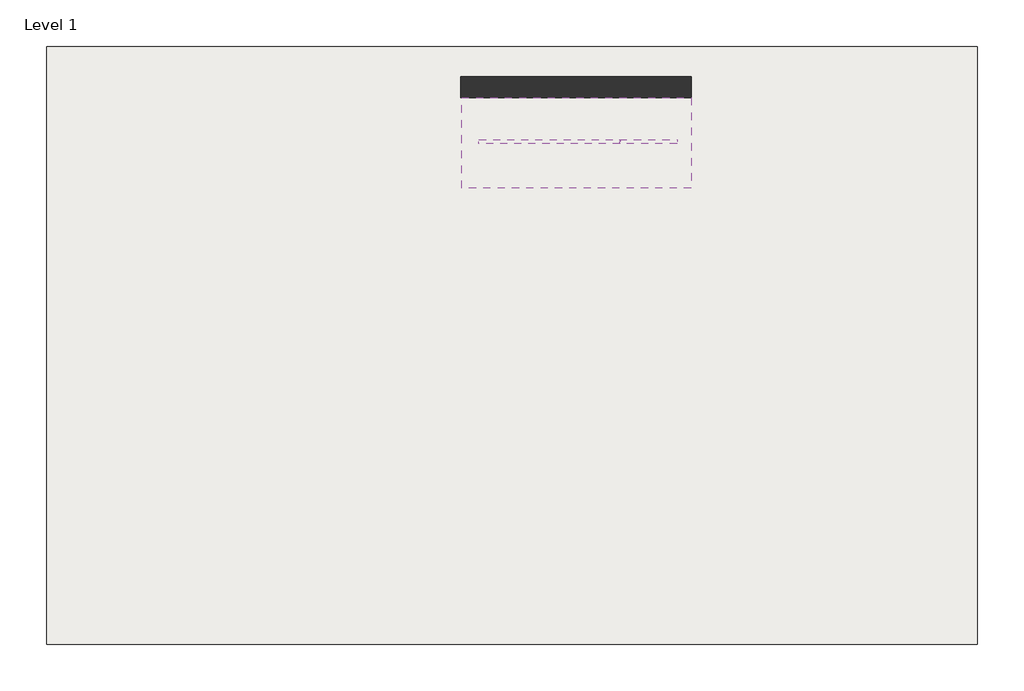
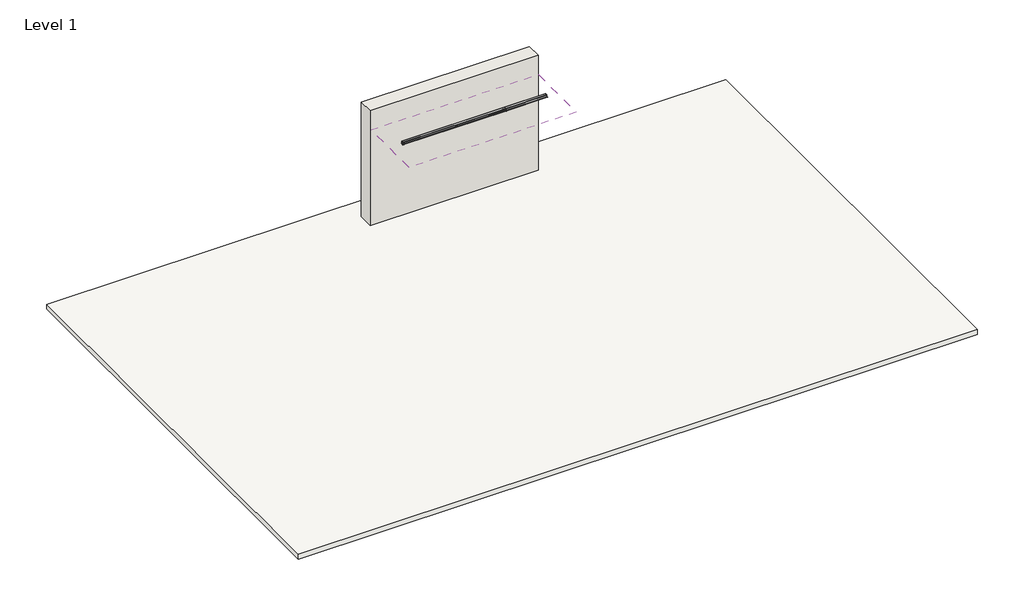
# One storey: 2 light fixtures, 1 covering, 1 slab, 1 wall.
"""IFC4 building model written with IfcOpenShell, lengths in millimetres."""

from ifc_helpers import new_model, si_unit, frame, origin, origin_with_axes, place, context, project, spatial, polyline, outline, extrude, transform, mapped, element, save
from components import lighting_recessed_axis_extend_2_b15b8388, lighting_recessed_axis_extend_2_ac76121e

model = new_model("IFC4")

# Units and contexts
model_context = context("Model", 3, world=origin())
ifc_project = project(units=[si_unit("LENGTHUNIT", "METRE", prefix="MILLI")], contexts=[model_context])

# Site, building, storey
site = spatial("IfcSite", under=ifc_project)
building = spatial("IfcBuilding", under=site)
storey = spatial("IfcBuildingStorey", under=building, Name="Level 1", Elevation=0.0)

# Covering
placement = place(None, origin())
element("IfcCovering", 1, ObjectType="Plain", at=placement, inside=storey, context=model_context, shape_type="SweptSolid", body=[
    extrude(outline(polyline([(-3780.5571266, 5992.4697047), (1248.6428734, 5992.4697047), (1248.6428734, 4011.2697047), (-3780.5571266, 4011.2697047), (-3780.5571266, 5992.4697047)]), holes=[polyline([(934.9782734, 5061.5597047), (-3397.7791266, 5061.5597047), (-3397.7791266, 4992.9797047), (934.9782734, 4992.9797047), (934.9782734, 5061.5597047)])]), frame((0.0, 0.0, 3048.0), z_axis=(0.0, 0.0, 1.0), x_axis=(1.0, 0.0, 0.0)), (0.0, 0.0, 1.0), 12.7),
])

# Light fixtures
lighting_recessed_axis_extend_2_shape = lighting_recessed_axis_extend_2_b15b8388(model_context)
element("IfcLightFixture", 2, ObjectType="Lighting-Recessed-Axis-Extend_2 : EX2R-900-80-35-SO-4", at=placement, inside=storey, context=model_context, shape_type="MappedRepresentation", body=[
    mapped(lighting_recessed_axis_extend_2_shape, transform((-1850.1571266, 5027.2697047, 3048.0), x_axis=(1.0, 0.0, 0.0), y_axis=(0.0, -1.0, 0.0), z_axis=(0.0, 0.0, -1.0))),
])
lighting_recessed_axis_extend_2_2_shape = lighting_recessed_axis_extend_2_ac76121e(model_context)
element("IfcLightFixture", 3, ObjectType="Lighting-Recessed-Axis-Extend_2 : EX2R-900-80-35-SO-4", at=placement, inside=storey, context=model_context, shape_type="MappedRepresentation", body=[
    mapped(lighting_recessed_axis_extend_2_2_shape, transform((301.7562734, 5027.2697047, 3048.0), x_axis=(1.0, 0.0, 0.0), y_axis=(0.0, -1.0, 0.0), z_axis=(0.0, 0.0, -1.0))),
])

# Slab
element("IfcSlab", 4, ObjectType="Generic 150mm", at=placement, inside=storey, context=model_context, shape_type="SweptSolid", body=[
    extrude(outline(polyline([(7531.7635568, 7118.573374), (7531.7635568, -6007.2851693), (-12889.8364432, -6007.2851693), (-12889.8364432, 7118.573374), (7531.7635568, 7118.573374)])), frame((0.0, 0.0, -150.0), z_axis=(0.0, 0.0, 1.0), x_axis=(1.0, 0.0, 0.0)), (0.0, 0.0, 1.0), 150.0),
])

# Wall
element("IfcWall", 5, ObjectType="Exterior - Block on Mtl. Stud", at=placement, inside=storey, context=model_context, shape_type="SweptSolid", body=[
    extrude(outline(polyline([(1248.6428734, 5992.4697047), (-3805.9571266, 5992.4697047), (-3805.9571266, 6452.4697047), (1248.6428734, 6452.4697047), (1248.6428734, 5992.4697047)])), origin_with_axes(), (0.0, 0.0, 1.0), 3657.6),
])

save(model, "model.ifc")
